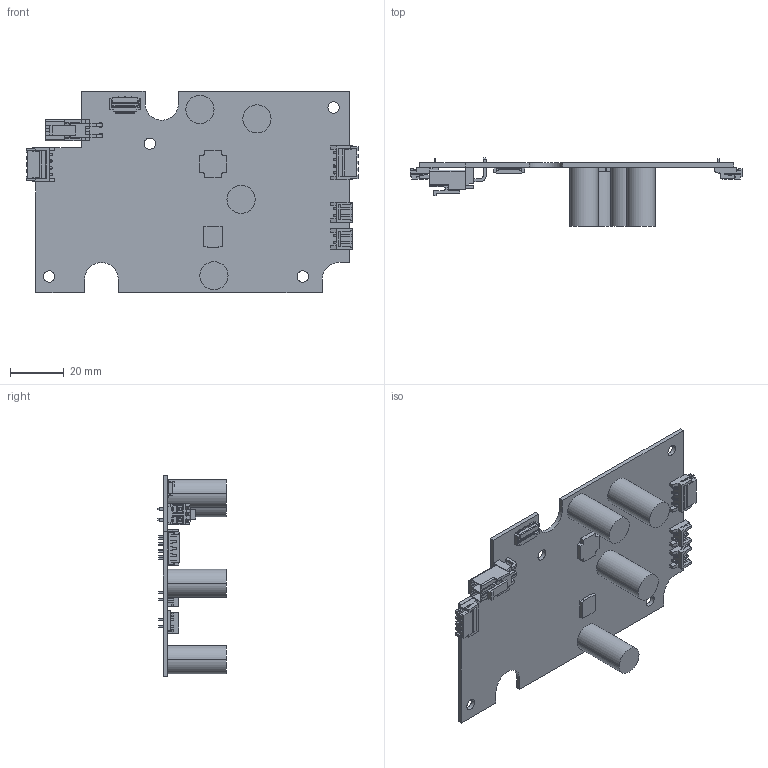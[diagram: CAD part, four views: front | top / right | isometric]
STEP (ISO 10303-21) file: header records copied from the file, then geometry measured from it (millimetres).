
FILE_DESCRIPTION((''),'2;1');
FILE_NAME('AMP_BOARD_SWAN_ASSY_ASM','2020-12-04T',('g6007893'),(''),'PRO/ENGINEER BY PARAMETRIC TECHNOLOGY CORPORATION, 2013320','PRO/ENGINEER BY PARAMETRIC TECHNOLOGY CORPORATION, 2013320','');
FILE_SCHEMA(('AUTOMOTIVE_DESIGN { 1 0 10303 214 1 1 1 1 }'));
Length unit declared in the file: millimetre
Products named in the file (12): AMP_BOARD_SWAN; C-D10_5-5-H22; SSOP-24ESH; TQFP-48DSH; S-51318-002XX-XXX; S-51282-002HXXX-XXX; S4B-EH; EHR-4; S2B-EH; PRT0006; FH41-15S-0_5SH-_ASM; AMP_BOARD_SWAN_ASSY_ASM
Assembly tree (17 placements, depth 3):
  AMP_BOARD_SWAN_ASSY_ASM
    AMP_BOARD_SWAN
    C-D10_5-5-H22  x4
    SSOP-24ESH
    TQFP-48DSH
    S-51318-002XX-XXX
    S-51282-002HXXX-XXX
    S4B-EH  x2
    EHR-4  x2
    S2B-EH  x2
    FH41-15S-0_5SH-_ASM
      PRT0006
Bounding box: 123.7 x 25.6 x 75 mm (x, y, z)
Volume: 22303.6 mm3; surface area: 24883 mm2
Topology: 16 solids, 16 shells, 1179 faces, 3314 edges, 2196 vertices
Faces by surface type: plane 998, cylinder 178, extrusion 3
Entity records: 33057 total; most frequent: CARTESIAN_POINT 5440, ORIENTED_EDGE 5304, DIRECTION 4881, EDGE_CURVE 2652, VECTOR 2329, LINE 2326, VERTEX_POINT 1756, AXIS2_PLACEMENT_3D 1276
